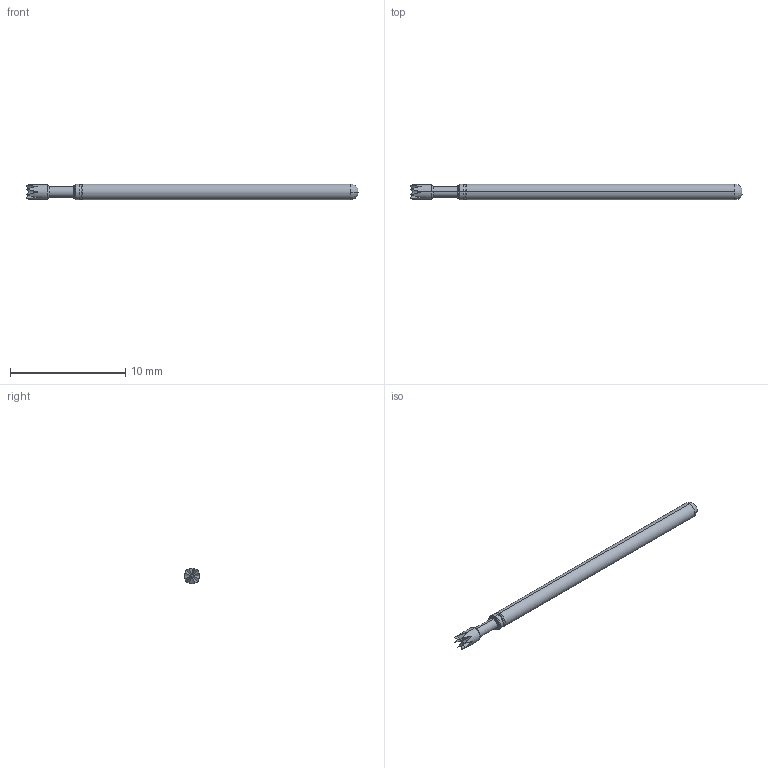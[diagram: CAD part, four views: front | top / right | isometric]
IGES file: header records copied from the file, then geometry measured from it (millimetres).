
Start section: SolidWorks IGES file using analytic representation for surfaces
Global section: file name: Z:\probe solid model mockups\Solidworks models\POGO-25 IGS files\POGO-25Z1 RECD.IGS; native system: SolidWorks 2006 by SolidWorks Corporation; preprocessor: SolidWorks 2006 by SolidWorks Corporation; author: tsakatani; date: 071214.094029; units: inch
Bounding box: 28.78 x 1.37 x 1.37 mm (x, y, z)
Surface area: 124.9 mm2 (no closed solid volume)
Topology: 0 solids, 0 shells, 38 faces, 210 edges, 210 vertices
Faces by surface type: bspline 22, revolution 16
